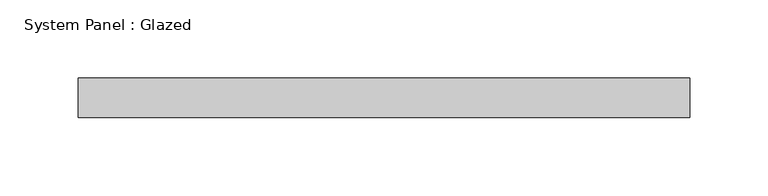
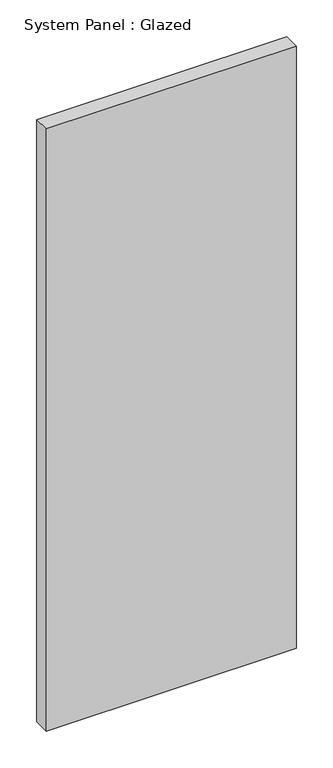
"""IFC4 building model written with IfcOpenShell, lengths in millimetres: plate geometry, System Panel : Glazed."""

from ifc_helpers import new_model, si_unit, origin, origin_with_axes, place, context, project, spatial, polyline, outline, extrude, source, transform, mapped, element, save


def system_panel_glazed_c9832c3d(model_context):
    return source(origin(), model_context, "Body", "SweptSolid", [
        extrude(outline(polyline([(195.6321805, -44.45), (-195.6321805, -44.45), (-195.6321805, -19.05), (195.6321805, -19.05), (195.6321805, -44.45)])), origin_with_axes(), (0.0, 0.0, 1.0), 996.95),
    ])


if __name__ == "__main__":
    model = new_model("IFC4")
    model_context = context("Model", 3, world=origin())
    ifc_project = project(units=[si_unit("LENGTHUNIT", "METRE", prefix="MILLI")], contexts=[model_context])
    site = spatial("IfcSite", under=ifc_project)
    building = spatial("IfcBuilding", under=site)
    placement = place(None, origin())
    system_panel_glazed_shape = system_panel_glazed_c9832c3d(model_context)
    element("IfcPlate", 1, ObjectType="System Panel : Glazed", at=placement, inside=building, context=model_context, shape_type="MappedRepresentation", body=[
        mapped(system_panel_glazed_shape, transform((0.0, 0.0, 0.0), x_axis=(1.0, 0.0, 0.0), y_axis=(0.0, 1.0, 0.0), z_axis=(0.0, 0.0, 1.0))),
    ])
    save(model, "model.ifc")
